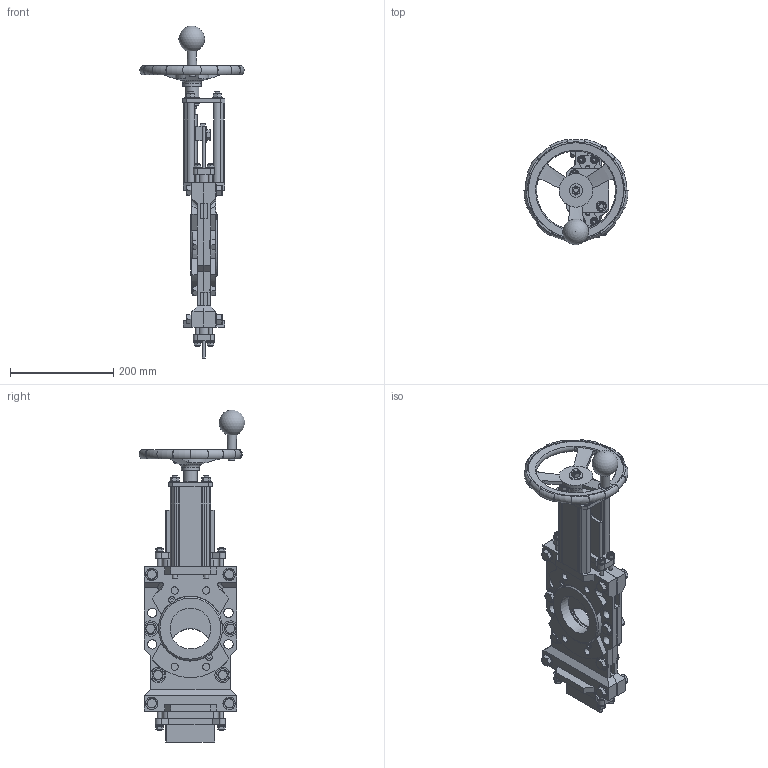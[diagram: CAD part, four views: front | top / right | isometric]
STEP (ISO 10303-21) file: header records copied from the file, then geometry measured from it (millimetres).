
FILE_DESCRIPTION(('STEP AP203'),'1');
FILE_NAME('G:/KONSTRUK/3-d block för CD/HG VALVE/HAND WHEEL/HG80-PN10-HW.stp','2012-02-08T14:18:26',(' '),(' '),'Spatial InterOp 3D',' ',' ');
FILE_SCHEMA(('CONFIG_CONTROL_DESIGN'));
Length unit declared in the file: metre
Products named in the file (3): 1; 2; 3
Bounding box: 201.92 x 204.89 x 643.99 mm (x, y, z)
Volume: 2485208.5 mm3; surface area: 669589.9 mm2
Topology: 3 solids, 20 shells, 1456 faces, 3429 edges, 2172 vertices
Faces by surface type: plane 723, cone 398, cylinder 295, torus 25, bspline 14, sphere 1
Full cylindrical faces by diameter (mm): 5 x4, 6.75 x8, 8 x16, 8.8 x8, 9 x8, 10 x11, 10.25 x9, 10.791 x5, 11 x4, 12 x11, 12.5 x18, 12.793 x17, 14 x8, 15 x4, 15.984 x8, 17 x1, 18 x9, 19 x1, 19.5 x2, 19.715 x4, 20 x2, 24 x16, 26.35 x1, 27 x2, 27.5 x2, 30 x2, 30.35 x1, 35 x1, 79 x3, 84 x2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
Entity records: 43995 total; most frequent: CARTESIAN_POINT 12906, DIRECTION 6272, ORIENTED_EDGE 6014, EDGE_CURVE 3007, AXIS2_PLACEMENT_3D 2562, VERTEX_POINT 2039, EDGE_LOOP 1986, FACE_OUTER_BOUND 1655
